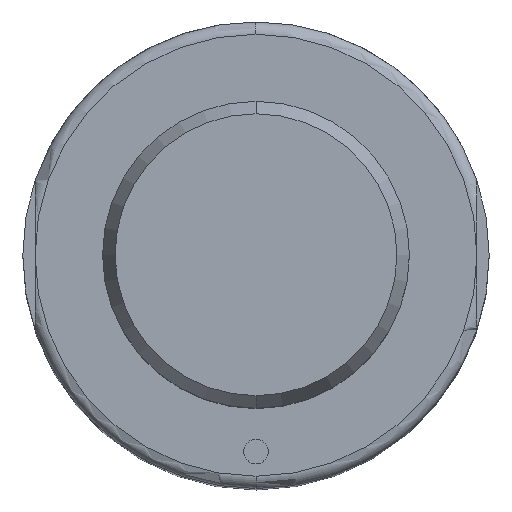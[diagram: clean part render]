
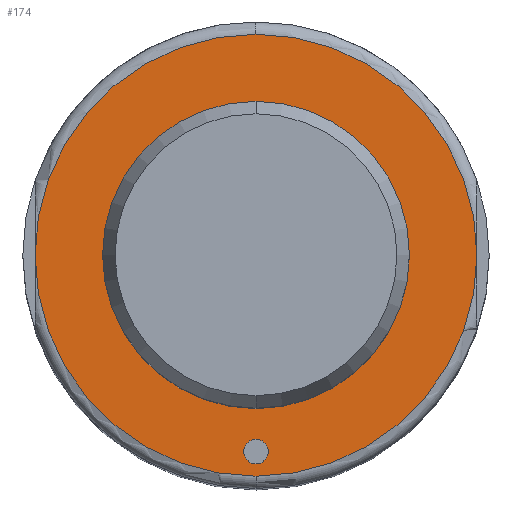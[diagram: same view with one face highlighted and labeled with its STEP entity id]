
A CAD part, top view. The second image highlights one B-rep face of the part: STEP entity #174.
In plain terms, the highlighted planar face has unit normal (0, 0, 1).
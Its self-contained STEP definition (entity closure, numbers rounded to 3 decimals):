
#105=FACE_BOUND('',#298,.T.);
#106=FACE_BOUND('',#299,.T.);
#107=FACE_BOUND('',#300,.T.);
#125=PLANE('',#985);
#174=ADVANCED_FACE('',(#105,#106,#107),#125,.T.);
#298=EDGE_LOOP('',(#459,#460,#461,#462));
#299=EDGE_LOOP('',(#463,#464));
#300=EDGE_LOOP('',(#465,#466));
#367=CIRCLE('',#968,12.5);
#368=CIRCLE('',#970,12.5);
#373=CIRCLE('',#979,18.);
#374=CIRCLE('',#980,18.);
#375=CIRCLE('',#981,18.);
#376=CIRCLE('',#982,18.);
#377=CIRCLE('',#983,1.);
#378=CIRCLE('',#984,1.);
#459=ORIENTED_EDGE('',*,*,#765,.F.);
#460=ORIENTED_EDGE('',*,*,#766,.F.);
#461=ORIENTED_EDGE('',*,*,#767,.F.);
#462=ORIENTED_EDGE('',*,*,#768,.F.);
#463=ORIENTED_EDGE('',*,*,#769,.F.);
#464=ORIENTED_EDGE('',*,*,#770,.F.);
#465=ORIENTED_EDGE('',*,*,#758,.T.);
#466=ORIENTED_EDGE('',*,*,#756,.T.);
#677=VERTEX_POINT('',#1411);
#678=VERTEX_POINT('',#1413);
#683=VERTEX_POINT('',#1432);
#684=VERTEX_POINT('',#1433);
#685=VERTEX_POINT('',#1435);
#686=VERTEX_POINT('',#1437);
#687=VERTEX_POINT('',#1440);
#688=VERTEX_POINT('',#1441);
#756=EDGE_CURVE('',#678,#677,#367,.T.);
#758=EDGE_CURVE('',#677,#678,#368,.T.);
#765=EDGE_CURVE('',#683,#684,#373,.T.);
#766=EDGE_CURVE('',#685,#683,#374,.T.);
#767=EDGE_CURVE('',#686,#685,#375,.T.);
#768=EDGE_CURVE('',#684,#686,#376,.T.);
#769=EDGE_CURVE('',#687,#688,#377,.T.);
#770=EDGE_CURVE('',#688,#687,#378,.T.);
#968=AXIS2_PLACEMENT_3D('',#1412,#1108,#1109);
#970=AXIS2_PLACEMENT_3D('',#1416,#1113,#1114);
#979=AXIS2_PLACEMENT_3D('',#1431,#1133,#1134);
#980=AXIS2_PLACEMENT_3D('',#1434,#1135,#1136);
#981=AXIS2_PLACEMENT_3D('',#1436,#1137,#1138);
#982=AXIS2_PLACEMENT_3D('',#1438,#1139,#1140);
#983=AXIS2_PLACEMENT_3D('',#1439,#1141,#1142);
#984=AXIS2_PLACEMENT_3D('',#1442,#1143,#1144);
#985=AXIS2_PLACEMENT_3D('',#1443,#1145,#1146);
#1108=DIRECTION('',(0.,0.,-1.));
#1109=DIRECTION('',(-1.,0.,0.));
#1113=DIRECTION('',(0.,0.,-1.));
#1114=DIRECTION('',(1.,0.,0.));
#1133=DIRECTION('',(0.,0.,-1.));
#1134=DIRECTION('',(-1.,0.,0.));
#1135=DIRECTION('',(0.,0.,-1.));
#1136=DIRECTION('',(1.,0.,0.));
#1137=DIRECTION('',(0.,0.,-1.));
#1138=DIRECTION('',(1.,0.,0.));
#1139=DIRECTION('',(0.,0.,-1.));
#1140=DIRECTION('',(-1.,0.,0.));
#1141=DIRECTION('',(0.,0.,1.));
#1142=DIRECTION('',(1.,0.,0.));
#1143=DIRECTION('',(0.,0.,1.));
#1144=DIRECTION('',(-1.,0.,0.));
#1145=DIRECTION('',(0.,0.,1.));
#1146=DIRECTION('',(1.,0.,0.));
#1411=CARTESIAN_POINT('',(0.,-12.5,73.));
#1412=CARTESIAN_POINT('',(0.,0.,73.));
#1413=CARTESIAN_POINT('',(0.,12.5,73.));
#1416=CARTESIAN_POINT('',(0.,0.,73.));
#1431=CARTESIAN_POINT('',(0.,0.,73.));
#1432=CARTESIAN_POINT('',(0.,18.,73.));
#1433=CARTESIAN_POINT('',(18.,0.,73.));
#1434=CARTESIAN_POINT('',(0.,0.,73.));
#1435=CARTESIAN_POINT('',(-18.,0.,73.));
#1436=CARTESIAN_POINT('',(0.,0.,73.));
#1437=CARTESIAN_POINT('',(0.,-18.,73.));
#1438=CARTESIAN_POINT('',(0.,0.,73.));
#1439=CARTESIAN_POINT('',(0.,-16.,73.));
#1440=CARTESIAN_POINT('',(0.,-15.,73.));
#1441=CARTESIAN_POINT('',(0.,-17.,73.));
#1442=CARTESIAN_POINT('',(0.,-16.,73.));
#1443=CARTESIAN_POINT('',(0.,0.,73.));
